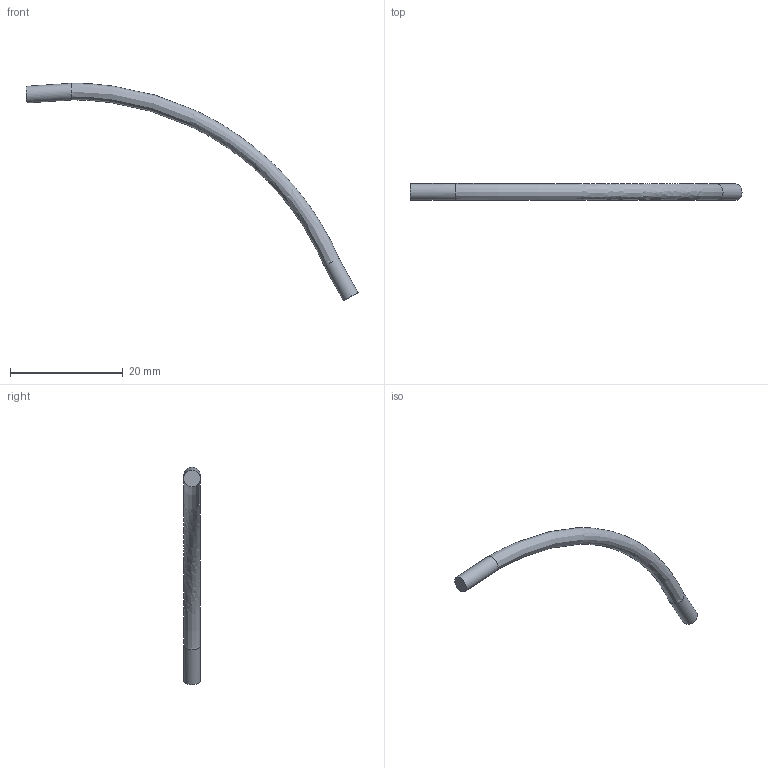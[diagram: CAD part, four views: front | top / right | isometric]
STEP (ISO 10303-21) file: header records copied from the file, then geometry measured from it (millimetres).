
FILE_DESCRIPTION(/* description */ ('Unknown'),/* implementation_level */ '2;1');
FILE_NAME(/* name */ 'Black_4614226_AVV',/* time_stamp */ '2025-07-21T23:48:08+02:00',/* author */ ('Unknown'),/* organization */ ('Unknown'),/* preprocessor_version */ 'ST-DEVELOPER v19.4',/* originating_system */ 'Solid Edge',/* authorisation */ 'Unknown');
FILE_SCHEMA (('AUTOMOTIVE_DESIGN {1 0 10303 214 3 1 1}'));
Length unit declared in the file: millimetre
Products named in the file (1): Black_4614226_AVV
Bounding box: 58.97 x 2.96 x 38.61 mm (x, y, z)
Volume: 505.9 mm3; surface area: 697.4 mm2
Topology: 1 solids, 1 shells, 5 faces, 9 edges, 6 vertices
Faces by surface type: cylinder 2, plane 2, bspline 1
Full cylindrical faces by diameter (mm): 2.96 x2
Entity records: 459 total; most frequent: CARTESIAN_POINT 349, DIRECTION 14, ORIENTED_EDGE 12, EDGE_LOOP 8, FACE_BOUND 8, AXIS2_PLACEMENT_3D 7, EDGE_CURVE 6, VERTEX_POINT 6
